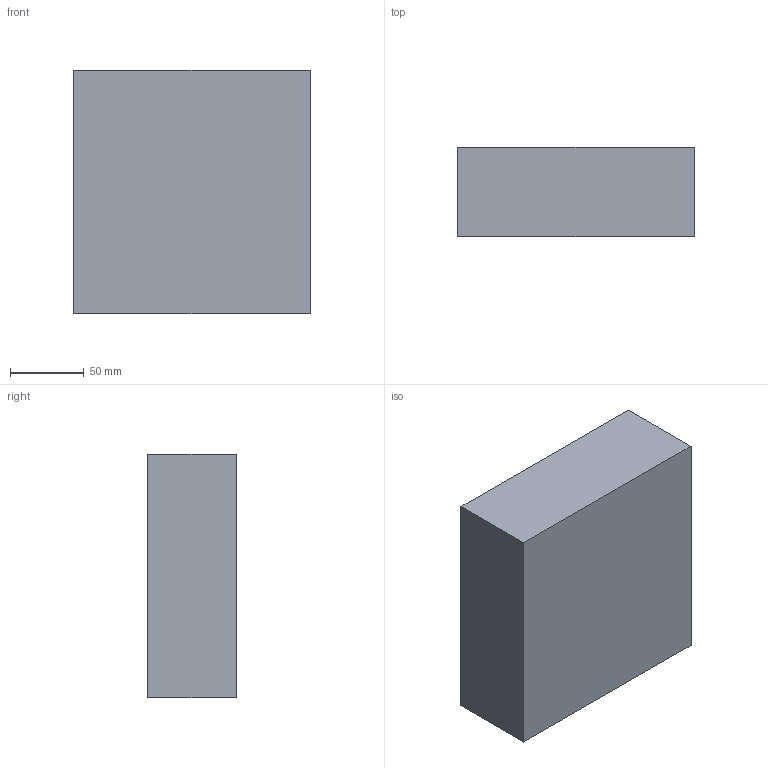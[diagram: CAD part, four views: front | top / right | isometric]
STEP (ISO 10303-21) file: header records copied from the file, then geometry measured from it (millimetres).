
FILE_DESCRIPTION(('Open CASCADE Model'),'2;1');
FILE_NAME('Open CASCADE Shape Model','2026-09-19T23:46:39',('Author'),( 'Open CASCADE'),'Open CASCADE STEP processor 7.9','Open CASCADE 7.9' ,'Unknown');
FILE_SCHEMA(('AUTOMOTIVE_DESIGN { 1 0 10303 214 1 1 1 1 }'));
Length unit declared in the file: millimetre
Products named in the file (1): Open CASCADE STEP translator 7.9 14
Bounding box: 160 x 60 x 165 mm (x, y, z)
Volume: 1584000 mm3; surface area: 91800 mm2
Topology: 1 solids, 1 shells, 6 faces, 12 edges, 8 vertices
Faces by surface type: plane 6
Entity records: 322 total; most frequent: CARTESIAN_POINT 51, DIRECTION 50, LINE 36, VECTOR 36, ORIENTED_EDGE 24, PCURVE 24, DEFINITIONAL_REPRESENTATION 24, EDGE_CURVE 12
